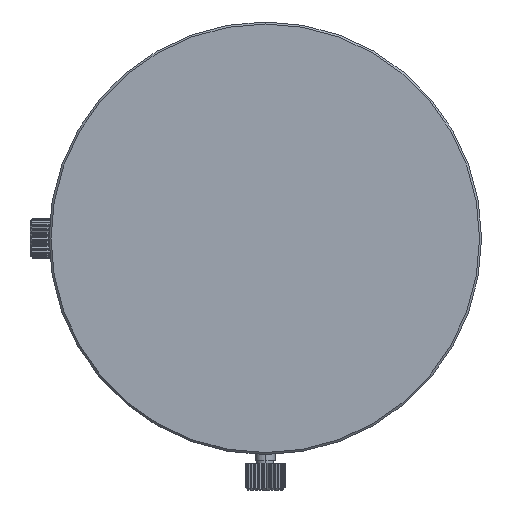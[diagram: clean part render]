
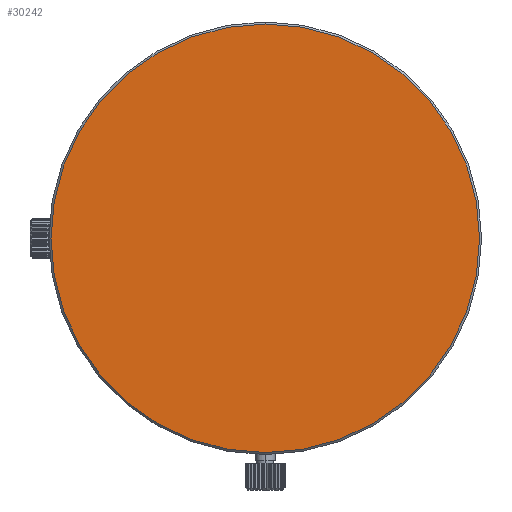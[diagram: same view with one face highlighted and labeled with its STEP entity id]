
A CAD part, left-side view. The second image highlights one B-rep face of the part: STEP entity #30242.
In plain terms, the highlighted planar face has unit normal (-1, 0, 0).
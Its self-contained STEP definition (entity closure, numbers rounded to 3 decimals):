
#316=CARTESIAN_POINT('',(-83.623,0.,0.));
#317=DIRECTION('',(-1.,0.,0.));
#318=DIRECTION('',(0.,-1.,0.));
#319=AXIS2_PLACEMENT_3D('',#316,#317,#318);
#321=CARTESIAN_POINT('',(-83.623,0.,0.));
#322=DIRECTION('',(-1.,0.,0.));
#323=DIRECTION('',(0.,1.,0.));
#324=AXIS2_PLACEMENT_3D('',#321,#322,#323);
#25174=CARTESIAN_POINT('',(-83.623,-32.2,0.));
#25175=CARTESIAN_POINT('',(-83.623,32.2,0.));
#25176=VERTEX_POINT('',#25174);
#25177=VERTEX_POINT('',#25175);
#30232=CARTESIAN_POINT('',(-83.623,0.,0.));
#30233=DIRECTION('',(1.,0.,0.));
#30234=DIRECTION('',(0.,-1.,0.));
#30235=AXIS2_PLACEMENT_3D('',#30232,#30233,#30234);
#30236=PLANE('',#30235);
#30238=ORIENTED_EDGE('',*,*,#30237,.F.);
#30239=ORIENTED_EDGE('',*,*,#30222,.F.);
#30240=EDGE_LOOP('',(#30238,#30239));
#30241=FACE_OUTER_BOUND('',#30240,.F.);
#320=CIRCLE('',#319,32.2);
#325=CIRCLE('',#324,32.2);
#30222=EDGE_CURVE('',#25177,#25176,#325,.T.);
#30237=EDGE_CURVE('',#25176,#25177,#320,.T.);
#30242=ADVANCED_FACE('',(#30241),#30236,.F.);
